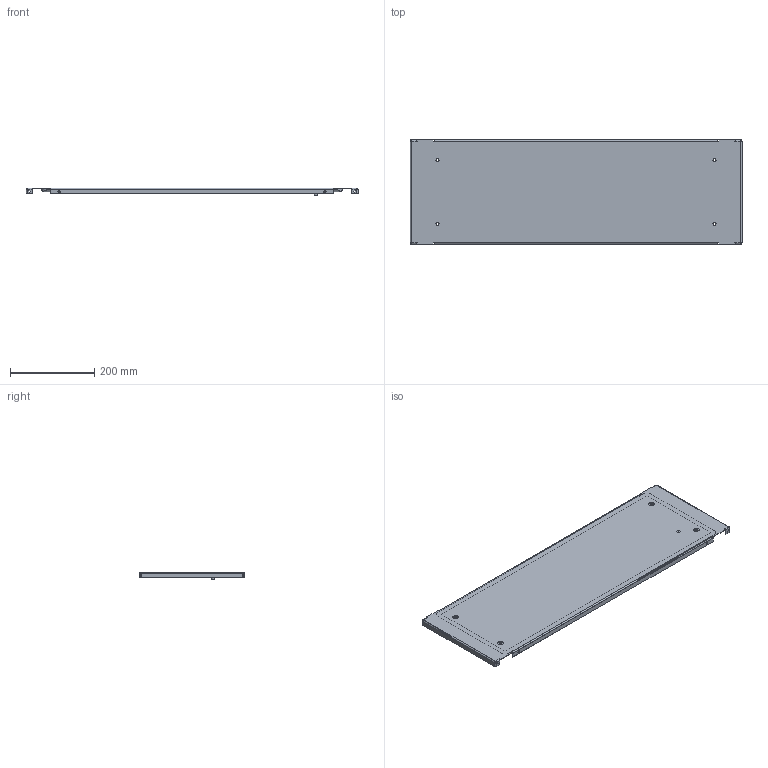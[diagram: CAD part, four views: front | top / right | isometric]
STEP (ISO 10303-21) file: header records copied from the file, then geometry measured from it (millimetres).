
FILE_DESCRIPTION(('STEP AP203'), '1');
FILE_NAME('Ïàíåëü ëèöåâàÿ ãëóõàÿ 250õ800 ìì OptiBox M 419478 ÊÝÀÇ', '', ('UNSPECIFIED'), ('UNSPECIFIED'), 'C3D Converter', 'C3D Toolkit', '');
FILE_SCHEMA(('CONFIG_CONTROL_DESIGN'));
Length unit declared in the file: millimetre
Bounding box: 786.4 x 247 x 18.9 mm (x, y, z)
Volume: 432926.9 mm3; surface area: 496859.1 mm2
Topology: 3 solids, 3 shells, 168 faces, 385 edges, 230 vertices
Faces by surface type: plane 109, cylinder 51, bspline 8
Full cylindrical faces by diameter (mm): 0.75 x1, 1 x1, 5 x2, 7.3 x4, 8 x1, 9.3 x1, 13 x1, 13.5 x4
Entity records: 7012 total; most frequent: CARTESIAN_POINT 2005, ORIENTED_EDGE 740, DIRECTION 726, EDGE_CURVE 370, LINE 264, VECTOR 264, AXIS2_PLACEMENT_3D 231, VERTEX_POINT 230
